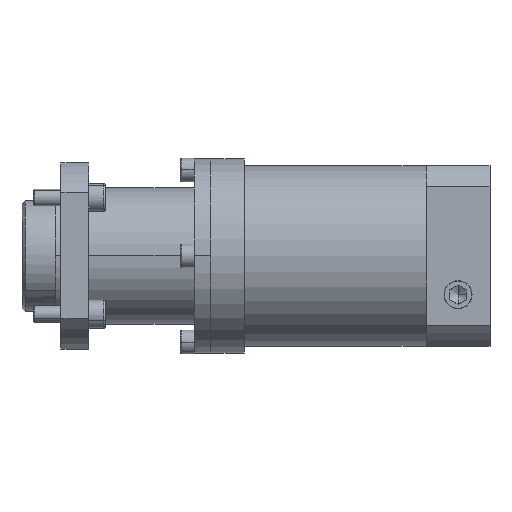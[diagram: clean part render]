
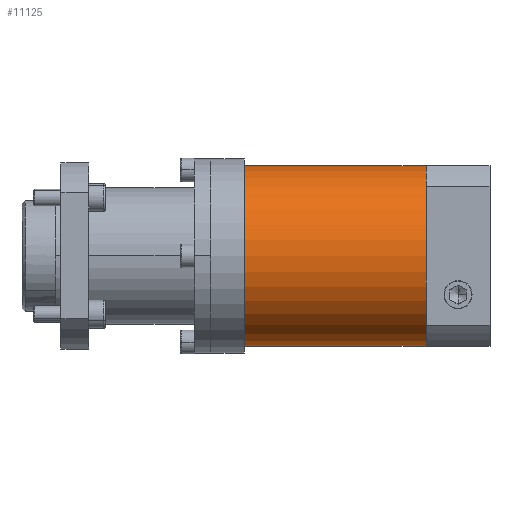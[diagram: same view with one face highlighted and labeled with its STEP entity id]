
A CAD part, top view. The second image highlights one B-rep face of the part: STEP entity #11125.
In plain terms, the highlighted cylindrical face has radius 32.5 mm (diameter 65 mm), a partial arc.
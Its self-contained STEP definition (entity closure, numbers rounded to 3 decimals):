
#552 = ORIENTED_EDGE ( 'NONE', *, *, #7120, .T. ) ;
#1139 = VERTEX_POINT ( 'NONE', #3175 ) ;
#1436 = VERTEX_POINT ( 'NONE', #14808 ) ;
#1636 = EDGE_LOOP ( 'NONE', ( #15653, #552, #18939, #6291, #16875 ) ) ;
#1777 = VERTEX_POINT ( 'NONE', #7391 ) ;
#3175 = CARTESIAN_POINT ( 'NONE',  ( -1.966, 56.379, 0. ) ) ;
#3368 = EDGE_CURVE ( 'NONE', #1436, #1777, #4548, .T. ) ;
#3459 = DIRECTION ( 'NONE',  ( -1., 0., 0. ) ) ;
#3564 = DIRECTION ( 'NONE',  ( 1., 0., 0. ) ) ;
#3670 = AXIS2_PLACEMENT_3D ( 'NONE', #5176, #16274, #6799 ) ;
#4293 = LINE ( 'NONE', #9883, #16456 ) ;
#4548 = CIRCLE ( 'NONE', #8639, 32.5 ) ;
#5006 = CARTESIAN_POINT ( 'NONE',  ( 63.534, 23.879, 0. ) ) ;
#5176 = CARTESIAN_POINT ( 'NONE',  ( -1.966, 23.879, 0. ) ) ;
#6291 = ORIENTED_EDGE ( 'NONE', *, *, #17895, .T. ) ;
#6596 = DIRECTION ( 'NONE',  ( 1., 0., 0. ) ) ;
#6619 = DIRECTION ( 'NONE',  ( 0., 0., -1. ) ) ;
#6654 = LINE ( 'NONE', #8247, #17786 ) ;
#6799 = DIRECTION ( 'NONE',  ( 0., 0., -1. ) ) ;
#7120 = EDGE_CURVE ( 'NONE', #1777, #19169, #15162, .T. ) ;
#7391 = CARTESIAN_POINT ( 'NONE',  ( 63.534, 23.879, 32.5 ) ) ;
#8247 = CARTESIAN_POINT ( 'NONE',  ( 30.784, 56.379, 0. ) ) ;
#8271 = CARTESIAN_POINT ( 'NONE',  ( 63.534, 23.879, 0. ) ) ;
#8577 = AXIS2_PLACEMENT_3D ( 'NONE', #8271, #19320, #9874 ) ;
#8639 = AXIS2_PLACEMENT_3D ( 'NONE', #5006, #16086, #6619 ) ;
#9407 = VERTEX_POINT ( 'NONE', #11323 ) ;
#9874 = DIRECTION ( 'NONE',  ( 0., 0., -1. ) ) ;
#9883 = CARTESIAN_POINT ( 'NONE',  ( 30.784, -8.621, 0. ) ) ;
#10438 = CARTESIAN_POINT ( 'NONE',  ( 63.534, 56.379, 0. ) ) ;
#11125 = ADVANCED_FACE ( 'NONE', ( #19269 ), #18280, .T. ) ;
#11154 = EDGE_CURVE ( 'NONE', #19169, #1139, #6654, .T. ) ;
#11323 = CARTESIAN_POINT ( 'NONE',  ( -1.966, -8.621, 0. ) ) ;
#11888 = CIRCLE ( 'NONE', #3670, 32.5 ) ;
#14501 = CARTESIAN_POINT ( 'NONE',  ( 30.784, 23.879, 0. ) ) ;
#14808 = CARTESIAN_POINT ( 'NONE',  ( 63.534, -8.621, 0. ) ) ;
#15162 = CIRCLE ( 'NONE', #8577, 32.5 ) ;
#15653 = ORIENTED_EDGE ( 'NONE', *, *, #3368, .T. ) ;
#15928 = AXIS2_PLACEMENT_3D ( 'NONE', #14501, #6596, #17651 ) ;
#16086 = DIRECTION ( 'NONE',  ( -1., 0., 0. ) ) ;
#16274 = DIRECTION ( 'NONE',  ( 1., 0., 0. ) ) ;
#16456 = VECTOR ( 'NONE', #3564, 1000. ) ;
#16875 = ORIENTED_EDGE ( 'NONE', *, *, #19552, .T. ) ;
#17651 = DIRECTION ( 'NONE',  ( 0., 0., -1. ) ) ;
#17786 = VECTOR ( 'NONE', #3459, 1000. ) ;
#17895 = EDGE_CURVE ( 'NONE', #1139, #9407, #11888, .T. ) ;
#18280 = CYLINDRICAL_SURFACE ( 'NONE', #15928, 32.5 ) ;
#18939 = ORIENTED_EDGE ( 'NONE', *, *, #11154, .T. ) ;
#19169 = VERTEX_POINT ( 'NONE', #10438 ) ;
#19269 = FACE_OUTER_BOUND ( 'NONE', #1636, .T. ) ;
#19320 = DIRECTION ( 'NONE',  ( -1., 0., 0. ) ) ;
#19552 = EDGE_CURVE ( 'NONE', #9407, #1436, #4293, .T. ) ;
